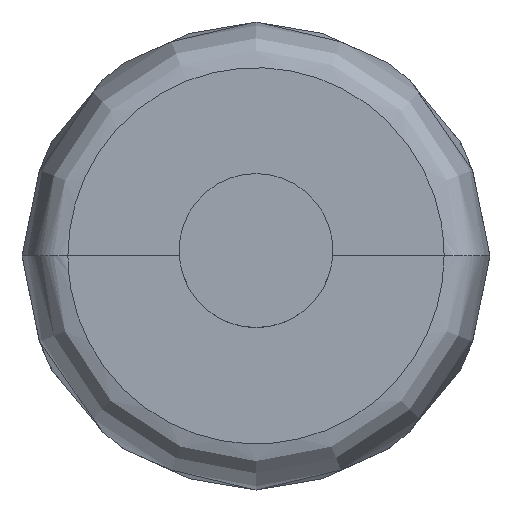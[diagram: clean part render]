
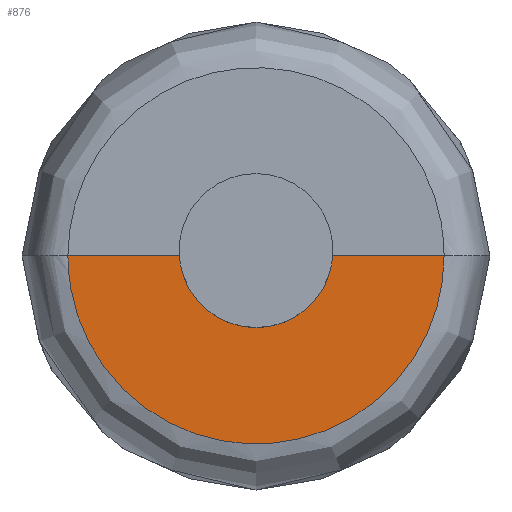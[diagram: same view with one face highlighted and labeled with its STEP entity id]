
A CAD part, top view. The second image highlights one B-rep face of the part: STEP entity #876.
In plain terms, the highlighted free-form (B-spline) face has degree [3, 2] with [4, 9] control points.
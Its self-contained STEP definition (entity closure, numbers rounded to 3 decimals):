
#17 = CARTESIAN_POINT ( 'NONE',  ( -202.763, 0., 538. ) ) ;
#24 = CARTESIAN_POINT ( 'NONE',  ( -202.763, 0., 538. ) ) ;
#38 = CARTESIAN_POINT ( 'NONE',  ( -173.508, 0., 538. ) ) ;
#39 = CARTESIAN_POINT ( 'NONE',  ( -7.237, 0., 538. ) ) ;
#66 = CARTESIAN_POINT ( 'NONE',  ( -117., 0., 538. ) ) ;
#122 = CARTESIAN_POINT ( 'NONE',  ( -105., -68.508, 538. ) ) ;
#135 = CARTESIAN_POINT ( 'NONE',  ( -7.237, 0., 538. ) ) ;
#141 =( BOUNDED_CURVE ( )  B_SPLINE_CURVE ( 2, ( #671, #1097, #976, #249, #24 ),
 .UNSPECIFIED., .F., .T. ) 
 B_SPLINE_CURVE_WITH_KNOTS ( ( 3, 2, 3 ),
 ( 382.21, 573.315, 764.42 ),
 .UNSPECIFIED. ) 
 CURVE ( )  GEOMETRIC_REPRESENTATION_ITEM ( )  RATIONAL_B_SPLINE_CURVE ( ( 1., 0.707, 1., 0.707, 1. ) ) 
 REPRESENTATION_ITEM ( '' )  );
#181 = EDGE_LOOP ( 'NONE', ( #546, #447, #849, #218 ) ) ;
#196 = VERTEX_POINT ( 'NONE', #545 ) ;
#218 = ORIENTED_EDGE ( 'NONE', *, *, #1154, .F. ) ;
#223 = CARTESIAN_POINT ( 'NONE',  ( -36.492, 0., 538. ) ) ;
#238 =( BOUNDED_SURFACE ( )  B_SPLINE_SURFACE ( 3, 2, ( 
 ( #991, #453, #678, #467, #135, #1329, #866, #1304, #17 ),
 ( #38, #331, #1203, #1323, #223, #663, #122, #551, #984 ),
 ( #445, #874, #773, #347, #780, #566, #999, #461, #271 ),
 ( #581, #388, #1026, #1245, #904, #1011, #911, #717, #1161 ) ),
 .UNSPECIFIED., .F., .T., .F. ) 
 B_SPLINE_SURFACE_WITH_KNOTS ( ( 4, 4 ),
 ( 3, 2, 2, 2, 3 ),
 ( -183.789, -12.405 ),
 ( 0., 191.105, 382.21, 573.315, 764.42 ),
 .UNSPECIFIED. ) 
 GEOMETRIC_REPRESENTATION_ITEM ( )  RATIONAL_B_SPLINE_SURFACE ( (
 ( 1., 0.707, 1., 0.707, 1., 0.707, 1., 0.707, 1.),
 ( 1., 0.707, 1., 0.707, 1., 0.707, 1., 0.707, 1.),
 ( 1., 0.707, 1., 0.707, 1., 0.707, 1., 0.707, 1.),
 ( 1., 0.707, 1., 0.707, 1., 0.707, 1., 0.707, 1.) ) ) 
 REPRESENTATION_ITEM ( '' )  SURFACE ( )  );
#241 = CARTESIAN_POINT ( 'NONE',  ( -93., 0., 538. ) ) ;
#249 = CARTESIAN_POINT ( 'NONE',  ( -202.763, -97.763, 538. ) ) ;
#271 = CARTESIAN_POINT ( 'NONE',  ( -144.254, 0., 538. ) ) ;
#293 = CIRCLE ( 'NONE', #658, 12. ) ;
#300 = CARTESIAN_POINT ( 'NONE',  ( -105., 0., 538. ) ) ;
#331 = CARTESIAN_POINT ( 'NONE',  ( -173.508, 68.508, 538. ) ) ;
#347 = CARTESIAN_POINT ( 'NONE',  ( -65.746, 39.254, 538. ) ) ;
#357 = B_SPLINE_CURVE_WITH_KNOTS ( 'NONE', 3,
 ( #1152, #1144, #605, #66 ),
 .UNSPECIFIED., .F., .F.,
 ( 4, 4 ),
 ( -183.789, -16.311 ),
 .UNSPECIFIED. ) ;
#362 = CARTESIAN_POINT ( 'NONE',  ( -93., 0., 538. ) ) ;
#372 = CARTESIAN_POINT ( 'NONE',  ( -7.237, 0., 538. ) ) ;
#388 = CARTESIAN_POINT ( 'NONE',  ( -115., 10., 538. ) ) ;
#411 = DIRECTION ( 'NONE',  ( 1., 0., 0. ) ) ;
#445 = CARTESIAN_POINT ( 'NONE',  ( -144.254, 0., 538. ) ) ;
#447 = ORIENTED_EDGE ( 'NONE', *, *, #457, .T. ) ;
#453 = CARTESIAN_POINT ( 'NONE',  ( -202.763, 97.763, 538. ) ) ;
#457 = EDGE_CURVE ( 'NONE', #538, #665, #478, .T. ) ;
#461 = CARTESIAN_POINT ( 'NONE',  ( -144.254, -39.254, 538. ) ) ;
#467 = CARTESIAN_POINT ( 'NONE',  ( -7.237, 97.763, 538. ) ) ;
#478 = B_SPLINE_CURVE_WITH_KNOTS ( 'NONE', 3,
 ( #39, #891, #1246, #241 ),
 .UNSPECIFIED., .F., .F.,
 ( 4, 4 ),
 ( -183.789, -16.311 ),
 .UNSPECIFIED. ) ;
#525 = VERTEX_POINT ( 'NONE', #1159 ) ;
#538 = VERTEX_POINT ( 'NONE', #372 ) ;
#545 = CARTESIAN_POINT ( 'NONE',  ( -117., 0., 538. ) ) ;
#546 = ORIENTED_EDGE ( 'NONE', *, *, #769, .F. ) ;
#551 = CARTESIAN_POINT ( 'NONE',  ( -173.508, -68.508, 538. ) ) ;
#566 = CARTESIAN_POINT ( 'NONE',  ( -65.746, -39.254, 538. ) ) ;
#581 = CARTESIAN_POINT ( 'NONE',  ( -115., 0., 538. ) ) ;
#605 = CARTESIAN_POINT ( 'NONE',  ( -145.588, 0., 538. ) ) ;
#658 = AXIS2_PLACEMENT_3D ( 'NONE', #300, #1291, #411 ) ;
#663 = CARTESIAN_POINT ( 'NONE',  ( -36.492, -68.508, 538. ) ) ;
#665 = VERTEX_POINT ( 'NONE', #362 ) ;
#671 = CARTESIAN_POINT ( 'NONE',  ( -7.237, 0., 538. ) ) ;
#678 = CARTESIAN_POINT ( 'NONE',  ( -105., 97.763, 538. ) ) ;
#717 = CARTESIAN_POINT ( 'NONE',  ( -115., -10., 538. ) ) ;
#769 = EDGE_CURVE ( 'NONE', #538, #525, #141, .T. ) ;
#773 = CARTESIAN_POINT ( 'NONE',  ( -105., 39.254, 538. ) ) ;
#780 = CARTESIAN_POINT ( 'NONE',  ( -65.746, 0., 538. ) ) ;
#849 = ORIENTED_EDGE ( 'NONE', *, *, #1404, .F. ) ;
#866 = CARTESIAN_POINT ( 'NONE',  ( -105., -97.763, 538. ) ) ;
#874 = CARTESIAN_POINT ( 'NONE',  ( -144.254, 39.254, 538. ) ) ;
#876 = ADVANCED_FACE ( 'NONE', ( #1210 ), #238, .T. ) ;
#891 = CARTESIAN_POINT ( 'NONE',  ( -35.825, 0., 538. ) ) ;
#904 = CARTESIAN_POINT ( 'NONE',  ( -95., 0., 538. ) ) ;
#911 = CARTESIAN_POINT ( 'NONE',  ( -105., -10., 538. ) ) ;
#976 = CARTESIAN_POINT ( 'NONE',  ( -105., -97.763, 538. ) ) ;
#984 = CARTESIAN_POINT ( 'NONE',  ( -173.508, 0., 538. ) ) ;
#991 = CARTESIAN_POINT ( 'NONE',  ( -202.763, 0., 538. ) ) ;
#999 = CARTESIAN_POINT ( 'NONE',  ( -105., -39.254, 538. ) ) ;
#1011 = CARTESIAN_POINT ( 'NONE',  ( -95., -10., 538. ) ) ;
#1026 = CARTESIAN_POINT ( 'NONE',  ( -105., 10., 538. ) ) ;
#1097 = CARTESIAN_POINT ( 'NONE',  ( -7.237, -97.763, 538. ) ) ;
#1144 = CARTESIAN_POINT ( 'NONE',  ( -174.175, 0., 538. ) ) ;
#1152 = CARTESIAN_POINT ( 'NONE',  ( -202.763, 0., 538. ) ) ;
#1154 = EDGE_CURVE ( 'NONE', #525, #196, #357, .T. ) ;
#1159 = CARTESIAN_POINT ( 'NONE',  ( -202.763, 0., 538. ) ) ;
#1161 = CARTESIAN_POINT ( 'NONE',  ( -115., 0., 538. ) ) ;
#1203 = CARTESIAN_POINT ( 'NONE',  ( -105., 68.508, 538. ) ) ;
#1210 = FACE_OUTER_BOUND ( 'NONE', #181, .T. ) ;
#1245 = CARTESIAN_POINT ( 'NONE',  ( -95., 10., 538. ) ) ;
#1246 = CARTESIAN_POINT ( 'NONE',  ( -64.412, 0., 538. ) ) ;
#1291 = DIRECTION ( 'NONE',  ( 0., 0., 1. ) ) ;
#1304 = CARTESIAN_POINT ( 'NONE',  ( -202.763, -97.763, 538. ) ) ;
#1323 = CARTESIAN_POINT ( 'NONE',  ( -36.492, 68.508, 538. ) ) ;
#1329 = CARTESIAN_POINT ( 'NONE',  ( -7.237, -97.763, 538. ) ) ;
#1404 = EDGE_CURVE ( 'NONE', #196, #665, #293, .T. ) ;
